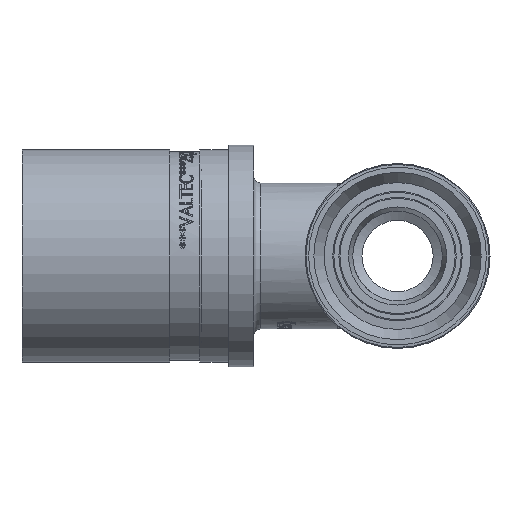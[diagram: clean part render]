
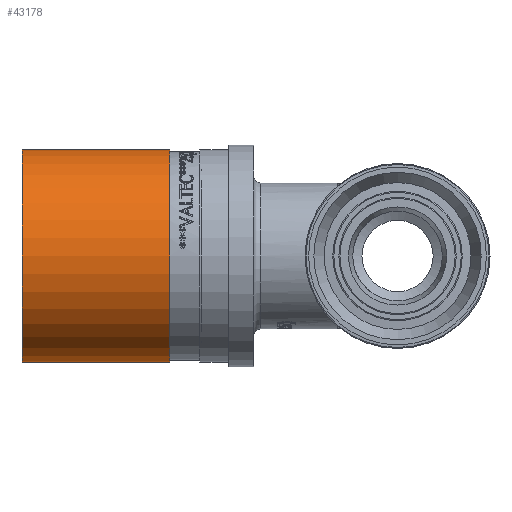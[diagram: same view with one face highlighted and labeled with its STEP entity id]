
A CAD part, left-side view. The second image highlights one B-rep face of the part: STEP entity #43178.
In plain terms, the highlighted cylindrical face has radius 14.925 mm (diameter 29.85 mm), a full revolution.
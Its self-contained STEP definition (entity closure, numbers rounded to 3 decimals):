
#3566=FACE_OUTER_BOUND('',#6118,.T.);
#6118=EDGE_LOOP('',(#34524,#34525,#34526,#34527,#34528,#34529));
#9129=LINE('',#75810,#12172);
#12172=VECTOR('',#50055,14.925);
#16621=CIRCLE('',#45419,14.925);
#16622=CIRCLE('',#45420,14.925);
#16623=CIRCLE('',#45422,14.925);
#16624=CIRCLE('',#45423,14.925);
#19351=VERTEX_POINT('',#75801);
#19352=VERTEX_POINT('',#75802);
#19353=VERTEX_POINT('',#75806);
#19354=VERTEX_POINT('',#75807);
#24841=EDGE_CURVE('',#19351,#19352,#16621,.T.);
#24842=EDGE_CURVE('',#19352,#19351,#16622,.T.);
#24843=EDGE_CURVE('',#19353,#19354,#16623,.T.);
#24844=EDGE_CURVE('',#19354,#19353,#16624,.T.);
#24845=EDGE_CURVE('',#19354,#19352,#9129,.T.);
#34524=ORIENTED_EDGE('',*,*,#24843,.F.);
#34525=ORIENTED_EDGE('',*,*,#24844,.F.);
#34526=ORIENTED_EDGE('',*,*,#24845,.T.);
#34527=ORIENTED_EDGE('',*,*,#24842,.T.);
#34528=ORIENTED_EDGE('',*,*,#24841,.T.);
#34529=ORIENTED_EDGE('',*,*,#24845,.F.);
#41901=CYLINDRICAL_SURFACE('',#45421,14.925);
#43178=ADVANCED_FACE('',(#3566),#41901,.T.);
#45419=AXIS2_PLACEMENT_3D('',#75803,#50045,#50046);
#45420=AXIS2_PLACEMENT_3D('',#75804,#50047,#50048);
#45421=AXIS2_PLACEMENT_3D('',#75805,#50049,#50050);
#45422=AXIS2_PLACEMENT_3D('',#75808,#50051,#50052);
#45423=AXIS2_PLACEMENT_3D('',#75809,#50053,#50054);
#50045=DIRECTION('center_axis',(0.,-1.,0.));
#50046=DIRECTION('ref_axis',(1.,0.,0.));
#50047=DIRECTION('center_axis',(0.,-1.,0.));
#50048=DIRECTION('ref_axis',(1.,0.,0.));
#50049=DIRECTION('center_axis',(0.,-1.,0.));
#50050=DIRECTION('ref_axis',(1.,0.,0.));
#50051=DIRECTION('center_axis',(0.,-1.,0.));
#50052=DIRECTION('ref_axis',(1.,0.,0.));
#50053=DIRECTION('center_axis',(0.,-1.,0.));
#50054=DIRECTION('ref_axis',(1.,0.,0.));
#50055=DIRECTION('',(0.,1.,0.));
#75801=CARTESIAN_POINT('',(14.925,52.8,0.));
#75802=CARTESIAN_POINT('',(-14.925,52.8,0.));
#75803=CARTESIAN_POINT('Origin',(0.,52.8,
0.));
#75804=CARTESIAN_POINT('Origin',(0.,52.8,
0.));
#75805=CARTESIAN_POINT('Origin',(0.,42.431,
0.));
#75806=CARTESIAN_POINT('',(14.925,32.061,0.));
#75807=CARTESIAN_POINT('',(-14.925,32.061,0.));
#75808=CARTESIAN_POINT('Origin',(0.,32.061,
0.));
#75809=CARTESIAN_POINT('Origin',(0.,32.061,
0.));
#75810=CARTESIAN_POINT('',(-14.925,42.431,0.));
